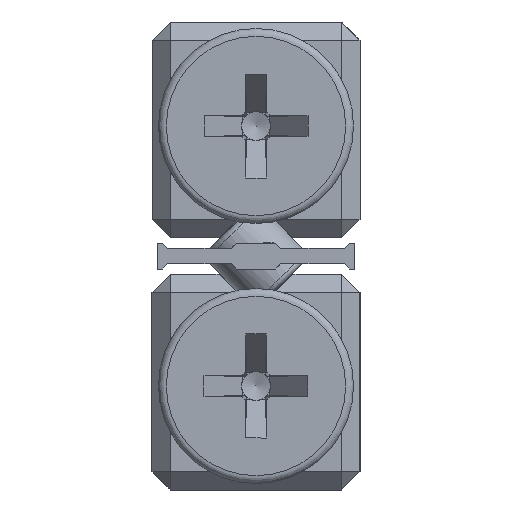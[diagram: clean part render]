
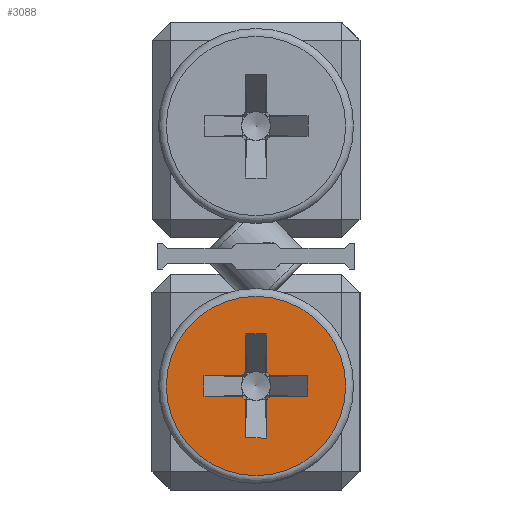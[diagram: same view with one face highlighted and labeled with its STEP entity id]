
A CAD part, left-side view. The second image highlights one B-rep face of the part: STEP entity #3088.
In plain terms, the highlighted planar face has unit normal (-1, 0, 0).
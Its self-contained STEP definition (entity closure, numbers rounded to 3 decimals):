
#87 = LINE ( 'NONE', #21045, #5350 ) ;
#357 = CARTESIAN_POINT ( 'NONE',  ( -77., 0.4, 4.548 ) ) ;
#432 = AXIS2_PLACEMENT_3D ( 'NONE', #15681, #3112, #15791 ) ;
#465 = CARTESIAN_POINT ( 'NONE',  ( -77., -0.4, 6. ) ) ;
#497 = CARTESIAN_POINT ( 'NONE',  ( -77., 0.4, 2. ) ) ;
#630 = CARTESIAN_POINT ( 'NONE',  ( -77., 2., 4.4 ) ) ;
#645 = ORIENTED_EDGE ( 'NONE', *, *, #4061, .F. ) ;
#781 = VECTOR ( 'NONE', #10277, 1000. ) ;
#804 = LINE ( 'NONE', #4141, #22151 ) ;
#995 = VERTEX_POINT ( 'NONE', #6990 ) ;
#1005 = DIRECTION ( 'NONE',  ( 0., 0., 1. ) ) ;
#1382 = CARTESIAN_POINT ( 'NONE',  ( -77., 0., 4. ) ) ;
#1580 = CARTESIAN_POINT ( 'NONE',  ( -77., -0.4, 2. ) ) ;
#1684 = CIRCLE ( 'NONE', #15576, 3.45 ) ;
#1736 = VERTEX_POINT ( 'NONE', #5102 ) ;
#1908 = AXIS2_PLACEMENT_3D ( 'NONE', #15672, #9352, #1005 ) ;
#2274 = CIRCLE ( 'NONE', #432, 0.678 ) ;
#2449 = LINE ( 'NONE', #15953, #14259 ) ;
#2897 = ORIENTED_EDGE ( 'NONE', *, *, #20341, .T. ) ;
#3088 = ADVANCED_FACE ( 'NONE', ( #15080, #17023 ), #21946, .F. ) ;
#3112 = DIRECTION ( 'NONE',  ( -1., 0., 0. ) ) ;
#3154 = CARTESIAN_POINT ( 'NONE',  ( -77., 0., 4. ) ) ;
#3304 = LINE ( 'NONE', #6956, #781 ) ;
#3346 = VECTOR ( 'NONE', #11432, 1000. ) ;
#3456 = CIRCLE ( 'NONE', #21356, 0.678 ) ;
#3807 = DIRECTION ( 'NONE',  ( 0., 0., -1. ) ) ;
#3841 = LINE ( 'NONE', #7485, #9252 ) ;
#3991 = VERTEX_POINT ( 'NONE', #5478 ) ;
#4061 = EDGE_CURVE ( 'NONE', #5215, #8186, #9950, .T. ) ;
#4141 = CARTESIAN_POINT ( 'NONE',  ( -77., -0.4, 6. ) ) ;
#4469 = CARTESIAN_POINT ( 'NONE',  ( -77., 2., 3.6 ) ) ;
#4695 = EDGE_CURVE ( 'NONE', #8948, #16023, #10122, .T. ) ;
#5102 = CARTESIAN_POINT ( 'NONE',  ( -77., -0.548, 3.6 ) ) ;
#5179 = CARTESIAN_POINT ( 'NONE',  ( -77., -0.548, 4.4 ) ) ;
#5215 = VERTEX_POINT ( 'NONE', #5179 ) ;
#5350 = VECTOR ( 'NONE', #11141, 1000. ) ;
#5473 = VECTOR ( 'NONE', #17781, 1000. ) ;
#5478 = CARTESIAN_POINT ( 'NONE',  ( -77., -2., 4.4 ) ) ;
#5730 = ORIENTED_EDGE ( 'NONE', *, *, #16617, .T. ) ;
#5884 = LINE ( 'NONE', #497, #8312 ) ;
#5916 = EDGE_CURVE ( 'NONE', #8948, #16285, #5884, .T. ) ;
#6038 = EDGE_CURVE ( 'NONE', #6246, #10534, #11219, .T. ) ;
#6117 = DIRECTION ( 'NONE',  ( -1., 0., 0. ) ) ;
#6246 = VERTEX_POINT ( 'NONE', #357 ) ;
#6249 = DIRECTION ( 'NONE',  ( 0., -1., 0. ) ) ;
#6381 = ORIENTED_EDGE ( 'NONE', *, *, #20213, .T. ) ;
#6477 = LINE ( 'NONE', #20106, #21131 ) ;
#6577 = DIRECTION ( 'NONE',  ( 0., 0., 1. ) ) ;
#6940 = EDGE_CURVE ( 'NONE', #6986, #1736, #87, .T. ) ;
#6956 = CARTESIAN_POINT ( 'NONE',  ( -77., -0.4, 6. ) ) ;
#6986 = VERTEX_POINT ( 'NONE', #12979 ) ;
#6990 = CARTESIAN_POINT ( 'NONE',  ( -77., 0.548, 3.6 ) ) ;
#7071 = EDGE_CURVE ( 'NONE', #995, #16285, #3456, .T. ) ;
#7485 = CARTESIAN_POINT ( 'NONE',  ( -77., 0.4, 2. ) ) ;
#7584 = CARTESIAN_POINT ( 'NONE',  ( -77., 2., 4.4 ) ) ;
#7697 = VECTOR ( 'NONE', #9981, 1000. ) ;
#8096 = DIRECTION ( 'NONE',  ( 0., 0., -1. ) ) ;
#8186 = VERTEX_POINT ( 'NONE', #13354 ) ;
#8232 = LINE ( 'NONE', #11313, #3346 ) ;
#8296 = CARTESIAN_POINT ( 'NONE',  ( -77., 0.4, 2. ) ) ;
#8312 = VECTOR ( 'NONE', #19971, 1000. ) ;
#8362 = DIRECTION ( 'NONE',  ( -1., 0., 0. ) ) ;
#8948 = VERTEX_POINT ( 'NONE', #16950 ) ;
#9172 = EDGE_CURVE ( 'NONE', #6986, #3991, #17087, .T. ) ;
#9252 = VECTOR ( 'NONE', #10797, 1000. ) ;
#9352 = DIRECTION ( 'NONE',  ( -1., 0., 0. ) ) ;
#9419 = DIRECTION ( 'NONE',  ( 0., 1., 0. ) ) ;
#9488 = VERTEX_POINT ( 'NONE', #4469 ) ;
#9491 = EDGE_CURVE ( 'NONE', #15364, #22342, #8232, .T. ) ;
#9577 = CARTESIAN_POINT ( 'NONE',  ( -77., 0., 0.55 ) ) ;
#9625 = EDGE_CURVE ( 'NONE', #5215, #3991, #11654, .T. ) ;
#9776 = DIRECTION ( 'NONE',  ( -1., 0., 0. ) ) ;
#9950 = CIRCLE ( 'NONE', #1908, 0.678 ) ;
#9981 = DIRECTION ( 'NONE',  ( 0., 0., 1. ) ) ;
#10122 = LINE ( 'NONE', #8296, #18098 ) ;
#10277 = DIRECTION ( 'NONE',  ( 0., 0., -1. ) ) ;
#10534 = VERTEX_POINT ( 'NONE', #16027 ) ;
#10797 = DIRECTION ( 'NONE',  ( 0., 0., 1. ) ) ;
#11141 = DIRECTION ( 'NONE',  ( 0., 1., 0. ) ) ;
#11218 = CARTESIAN_POINT ( 'NONE',  ( -77., -0.4, 3.452 ) ) ;
#11219 = CIRCLE ( 'NONE', #22207, 0.678 ) ;
#11313 = CARTESIAN_POINT ( 'NONE',  ( -77., -0.4, 6. ) ) ;
#11424 = EDGE_CURVE ( 'NONE', #20486, #10534, #6477, .T. ) ;
#11432 = DIRECTION ( 'NONE',  ( 0., 1., 0. ) ) ;
#11654 = LINE ( 'NONE', #12334, #17588 ) ;
#12334 = CARTESIAN_POINT ( 'NONE',  ( -77., 2., 4.4 ) ) ;
#12599 = ORIENTED_EDGE ( 'NONE', *, *, #7071, .F. ) ;
#12712 = ORIENTED_EDGE ( 'NONE', *, *, #4695, .F. ) ;
#12736 = EDGE_CURVE ( 'NONE', #20486, #9488, #17668, .T. ) ;
#12979 = CARTESIAN_POINT ( 'NONE',  ( -77., -2., 3.6 ) ) ;
#13326 = DIRECTION ( 'NONE',  ( 0., 0., 1. ) ) ;
#13353 = CARTESIAN_POINT ( 'NONE',  ( -77., 3.75, 4. ) ) ;
#13354 = CARTESIAN_POINT ( 'NONE',  ( -77., -0.4, 4.548 ) ) ;
#13471 = ORIENTED_EDGE ( 'NONE', *, *, #6940, .T. ) ;
#14259 = VECTOR ( 'NONE', #9419, 1000. ) ;
#14556 = CARTESIAN_POINT ( 'NONE',  ( -77., 0.4, 6. ) ) ;
#14597 = ORIENTED_EDGE ( 'NONE', *, *, #11424, .T. ) ;
#14702 = ORIENTED_EDGE ( 'NONE', *, *, #6038, .F. ) ;
#15073 = EDGE_CURVE ( 'NONE', #995, #9488, #2449, .T. ) ;
#15080 = FACE_OUTER_BOUND ( 'NONE', #20760, .T. ) ;
#15341 = DIRECTION ( 'NONE',  ( 0., 0., -1. ) ) ;
#15364 = VERTEX_POINT ( 'NONE', #465 ) ;
#15576 = AXIS2_PLACEMENT_3D ( 'NONE', #1382, #8362, #15341 ) ;
#15672 = CARTESIAN_POINT ( 'NONE',  ( -77., 0., 4. ) ) ;
#15681 = CARTESIAN_POINT ( 'NONE',  ( -77., 0., 4. ) ) ;
#15791 = DIRECTION ( 'NONE',  ( 0., 0., 1. ) ) ;
#15953 = CARTESIAN_POINT ( 'NONE',  ( -77., -2., 3.6 ) ) ;
#16023 = VERTEX_POINT ( 'NONE', #1580 ) ;
#16027 = CARTESIAN_POINT ( 'NONE',  ( -77., 0.548, 4.4 ) ) ;
#16178 = ORIENTED_EDGE ( 'NONE', *, *, #5916, .T. ) ;
#16285 = VERTEX_POINT ( 'NONE', #18911 ) ;
#16617 = EDGE_CURVE ( 'NONE', #15364, #8186, #3304, .T. ) ;
#16950 = CARTESIAN_POINT ( 'NONE',  ( -77., 0.4, 2. ) ) ;
#17023 = FACE_BOUND ( 'NONE', #22571, .T. ) ;
#17087 = LINE ( 'NONE', #20521, #7697 ) ;
#17274 = AXIS2_PLACEMENT_3D ( 'NONE', #13353, #22287, #8096 ) ;
#17304 = EDGE_CURVE ( 'NONE', #18669, #1736, #2274, .T. ) ;
#17588 = VECTOR ( 'NONE', #22317, 1000. ) ;
#17668 = LINE ( 'NONE', #7584, #5473 ) ;
#17781 = DIRECTION ( 'NONE',  ( 0., 0., -1. ) ) ;
#18084 = ORIENTED_EDGE ( 'NONE', *, *, #19367, .T. ) ;
#18098 = VECTOR ( 'NONE', #20324, 1000. ) ;
#18669 = VERTEX_POINT ( 'NONE', #11218 ) ;
#18911 = CARTESIAN_POINT ( 'NONE',  ( -77., 0.4, 3.452 ) ) ;
#19226 = ORIENTED_EDGE ( 'NONE', *, *, #12736, .F. ) ;
#19367 = EDGE_CURVE ( 'NONE', #6246, #22342, #3841, .T. ) ;
#19563 = ORIENTED_EDGE ( 'NONE', *, *, #9491, .F. ) ;
#19971 = DIRECTION ( 'NONE',  ( 0., 0., 1. ) ) ;
#20018 = VERTEX_POINT ( 'NONE', #9577 ) ;
#20106 = CARTESIAN_POINT ( 'NONE',  ( -77., 2., 4.4 ) ) ;
#20207 = ORIENTED_EDGE ( 'NONE', *, *, #9625, .T. ) ;
#20213 = EDGE_CURVE ( 'NONE', #18669, #16023, #804, .T. ) ;
#20324 = DIRECTION ( 'NONE',  ( 0., -1., 0. ) ) ;
#20337 = ORIENTED_EDGE ( 'NONE', *, *, #15073, .T. ) ;
#20341 = EDGE_CURVE ( 'NONE', #20018, #20018, #1684, .T. ) ;
#20486 = VERTEX_POINT ( 'NONE', #630 ) ;
#20521 = CARTESIAN_POINT ( 'NONE',  ( -77., -2., 3.6 ) ) ;
#20760 = EDGE_LOOP ( 'NONE', ( #2897 ) ) ;
#21045 = CARTESIAN_POINT ( 'NONE',  ( -77., -2., 3.6 ) ) ;
#21131 = VECTOR ( 'NONE', #6249, 1000. ) ;
#21356 = AXIS2_PLACEMENT_3D ( 'NONE', #3154, #9776, #13326 ) ;
#21704 = ORIENTED_EDGE ( 'NONE', *, *, #9172, .F. ) ;
#21946 = PLANE ( 'NONE',  #17274 ) ;
#22075 = ORIENTED_EDGE ( 'NONE', *, *, #17304, .F. ) ;
#22151 = VECTOR ( 'NONE', #3807, 1000. ) ;
#22207 = AXIS2_PLACEMENT_3D ( 'NONE', #22261, #6117, #6577 ) ;
#22261 = CARTESIAN_POINT ( 'NONE',  ( -77., 0., 4. ) ) ;
#22287 = DIRECTION ( 'NONE',  ( 1., 0., 0. ) ) ;
#22317 = DIRECTION ( 'NONE',  ( 0., -1., 0. ) ) ;
#22342 = VERTEX_POINT ( 'NONE', #14556 ) ;
#22571 = EDGE_LOOP ( 'NONE', ( #22075, #6381, #12712, #16178, #12599, #20337, #19226, #14597, #14702, #18084, #19563, #5730, #645, #20207, #21704, #13471 ) ) ;
